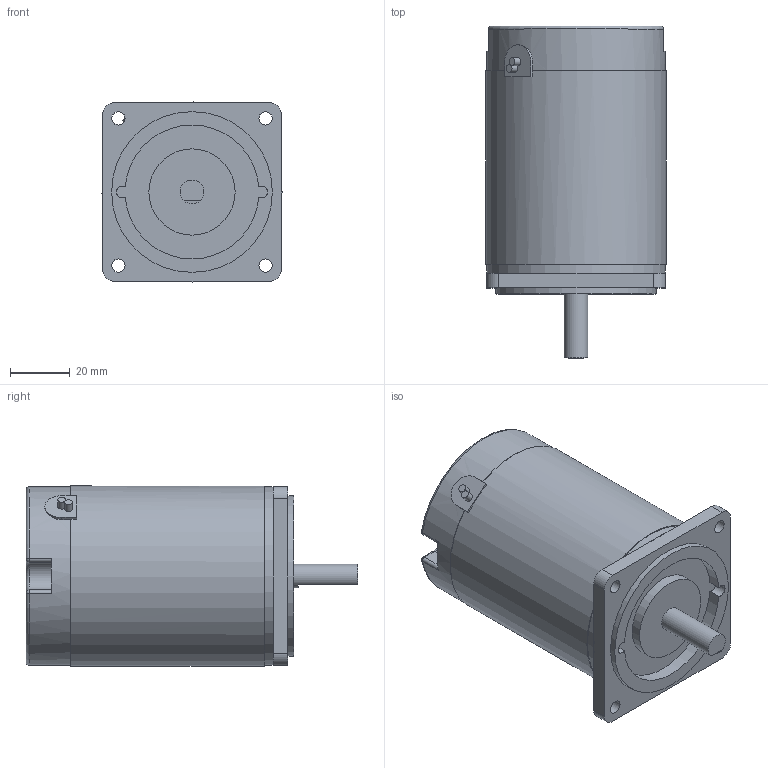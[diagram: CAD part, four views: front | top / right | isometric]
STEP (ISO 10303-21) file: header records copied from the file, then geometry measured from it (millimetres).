
FILE_DESCRIPTION((''),'2;1');
FILE_NAME('E:\2공장-도면\3D\표준형 3D(민규)\step file\K6DS15N.stp','2014-11-06T14:03:35',('AHN'),(''),'Autodesk Inventor 2012','Autodesk Inventor 2012','');
FILE_SCHEMA(('CONFIG_CONTROL_DESIGN'));
Length unit declared in the file: millimetre
Products named in the file (1): K6DS15N
Bounding box: 60.5 x 111.5 x 60.5 mm (x, y, z)
Volume: 254996.7 mm3; surface area: 26423.2 mm2
Topology: 1 solids, 1 shells, 69 faces, 161 edges, 98 vertices
Faces by surface type: cylinder 31, plane 30, torus 4, sphere 4
Full cylindrical faces by diameter (mm): 2.6 x2, 4.5 x4, 8 x1, 29 x1, 54 x1, 60 x2, 60.5 x1
Entity records: 1927 total; most frequent: DIRECTION 361, CARTESIAN_POINT 325, ORIENTED_EDGE 290, AXIS2_PLACEMENT_3D 147, EDGE_CURVE 145, VERTEX_POINT 93, EDGE_LOOP 93, CIRCLE 77
